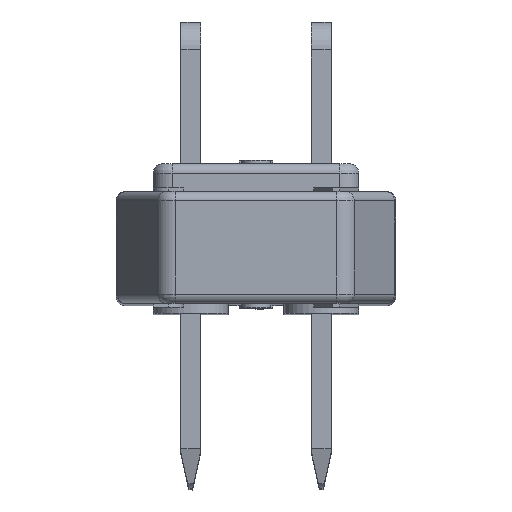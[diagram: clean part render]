
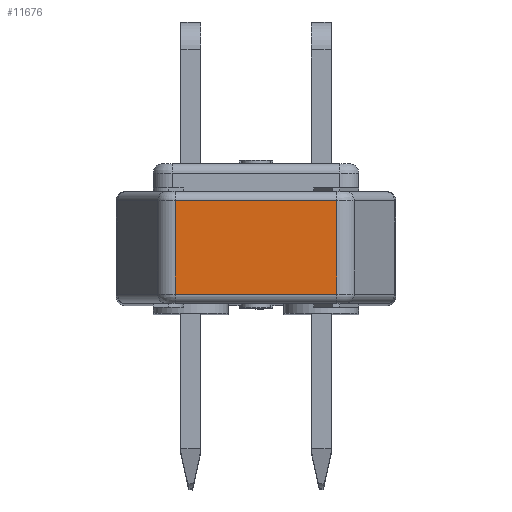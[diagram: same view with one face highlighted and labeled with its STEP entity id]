
A CAD part, top view. The second image highlights one B-rep face of the part: STEP entity #11676.
In plain terms, the highlighted planar face has unit normal (0, 0, 1).
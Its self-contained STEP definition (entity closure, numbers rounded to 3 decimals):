
#7705=CARTESIAN_POINT('',(-4.338,2.,23.5));
#7706=VERTEX_POINT('',#7705);
#7811=CARTESIAN_POINT('',(4.338,2.,23.5));
#7812=VERTEX_POINT('',#7811);
#7876=CARTESIAN_POINT('',(-4.338,2.,23.5));
#7877=DIRECTION('',(1.0,0.0,0.0));
#7878=VECTOR('',#7877,8.676);
#7879=LINE('',#7876,#7878);
#7880=EDGE_CURVE('',#7706,#7812,#7879,.T.);
#11293=CARTESIAN_POINT('',(4.338,-3.,23.5));
#11294=VERTEX_POINT('',#11293);
#11401=CARTESIAN_POINT('',(-4.338,-3.,23.5));
#11402=VERTEX_POINT('',#11401);
#11466=CARTESIAN_POINT('',(4.338,-3.,23.5));
#11467=DIRECTION('',(-1.0,0.0,0.0));
#11468=VECTOR('',#11467,8.676);
#11469=LINE('',#11466,#11468);
#11470=EDGE_CURVE('',#11294,#11402,#11469,.T.);
#11494=CARTESIAN_POINT('',(-4.338,-3.,23.5));
#11495=DIRECTION('',(0.0,1.0,0.0));
#11496=VECTOR('',#11495,5.0);
#11497=LINE('',#11494,#11496);
#11498=EDGE_CURVE('',#11402,#7706,#11497,.T.);
#11575=CARTESIAN_POINT('',(4.338,2.,23.5));
#11576=DIRECTION('',(0.0,-1.0,0.0));
#11577=VECTOR('',#11576,5.0);
#11578=LINE('',#11575,#11577);
#11579=EDGE_CURVE('',#7812,#11294,#11578,.T.);
#11665=CARTESIAN_POINT('',(5.,-3.5,23.5));
#11666=DIRECTION('',(0.0,0.0,1.0));
#11667=DIRECTION('',(0.0,1.0,0.0));
#11668=AXIS2_PLACEMENT_3D('',#11665,#11666,#11667);
#11669=PLANE('',#11668);
#11670=ORIENTED_EDGE('',*,*,#11498,.F.);
#11671=ORIENTED_EDGE('',*,*,#11470,.F.);
#11672=ORIENTED_EDGE('',*,*,#11579,.F.);
#11673=ORIENTED_EDGE('',*,*,#7880,.F.);
#11674=EDGE_LOOP('',(#11670,#11671,#11672,#11673));
#11675=FACE_OUTER_BOUND('',#11674,.T.);
#11676=ADVANCED_FACE('',(#11675),#11669,.T.);
